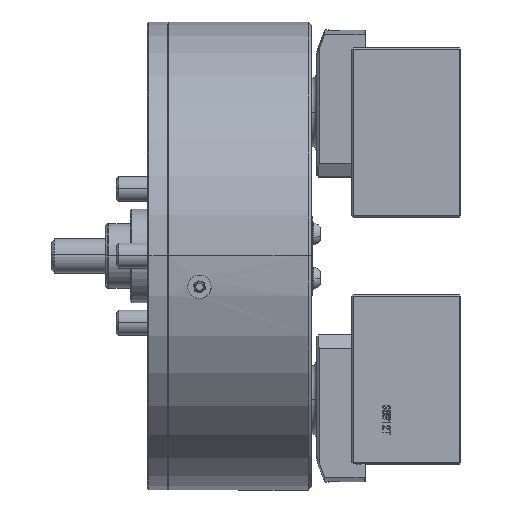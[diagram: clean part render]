
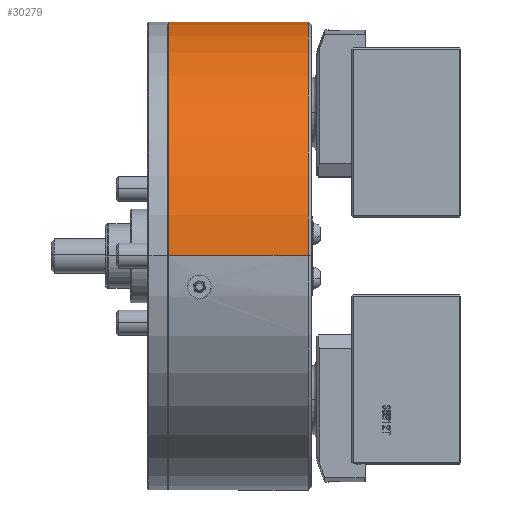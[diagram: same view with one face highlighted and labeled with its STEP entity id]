
A CAD part, top view. The second image highlights one B-rep face of the part: STEP entity #30279.
In plain terms, the highlighted cylindrical face has radius 150 mm (diameter 300 mm), a partial arc.
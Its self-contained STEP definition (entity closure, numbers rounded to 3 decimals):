
#1378 = CARTESIAN_POINT ( 'NONE',  ( 9.899, 0., 0. ) ) ;
#1625 = CARTESIAN_POINT ( 'NONE',  ( -2., 0., 0. ) ) ;
#3368 = EDGE_LOOP ( 'NONE', ( #45412, #45844, #45950, #46490 ) ) ;
#3394 = CARTESIAN_POINT ( 'NONE',  ( -91.2, 0., -150. ) ) ;
#5193 = DIRECTION ( 'NONE',  ( 1., 0., 0. ) ) ;
#5451 = DIRECTION ( 'NONE',  ( 0., 0., -1. ) ) ;
#5804 = FACE_OUTER_BOUND ( 'NONE', #3368, .T. ) ;
#6101 = VERTEX_POINT ( 'NONE', #30475 ) ;
#6906 = CARTESIAN_POINT ( 'NONE',  ( -91.2, 0., 0. ) ) ;
#8876 = CARTESIAN_POINT ( 'NONE',  ( -2., 0., 150. ) ) ;
#10726 = DIRECTION ( 'NONE',  ( 0., 0., -1. ) ) ;
#12951 = AXIS2_PLACEMENT_3D ( 'NONE', #6906, #33232, #10726 ) ;
#14025 = EDGE_CURVE ( 'NONE', #37751, #26816, #47907, .T. ) ;
#14665 = CYLINDRICAL_SURFACE ( 'NONE', #41987, 150. ) ;
#15526 = CARTESIAN_POINT ( 'NONE',  ( -2., 0., -150. ) ) ;
#18908 = VERTEX_POINT ( 'NONE', #8876 ) ;
#20068 = EDGE_CURVE ( 'NONE', #26816, #18908, #35016, .T. ) ;
#20329 = EDGE_CURVE ( 'NONE', #37751, #6101, #38004, .T. ) ;
#20849 = EDGE_CURVE ( 'NONE', #6101, #18908, #23789, .T. ) ;
#22494 = DIRECTION ( 'NONE',  ( 1., 0., 0. ) ) ;
#23789 = LINE ( 'NONE', #48423, #40316 ) ;
#23966 = DIRECTION ( 'NONE',  ( 0., 0., -1. ) ) ;
#23968 = AXIS2_PLACEMENT_3D ( 'NONE', #1625, #28023, #5451 ) ;
#26816 = VERTEX_POINT ( 'NONE', #15526 ) ;
#28023 = DIRECTION ( 'NONE',  ( 1., 0., 0. ) ) ;
#30279 = ADVANCED_FACE ( 'NONE', ( #5804 ), #14665, .T. ) ;
#30475 = CARTESIAN_POINT ( 'NONE',  ( -91.2, 0., 150. ) ) ;
#33232 = DIRECTION ( 'NONE',  ( 1., 0., 0. ) ) ;
#35016 = CIRCLE ( 'NONE', #23968, 150. ) ;
#36780 = VECTOR ( 'NONE', #40830, 1000. ) ;
#37751 = VERTEX_POINT ( 'NONE', #3394 ) ;
#38004 = CIRCLE ( 'NONE', #12951, 150. ) ;
#40316 = VECTOR ( 'NONE', #22494, 1000. ) ;
#40830 = DIRECTION ( 'NONE',  ( 1., 0., 0. ) ) ;
#40890 = CARTESIAN_POINT ( 'NONE',  ( 9.899, 0., -150. ) ) ;
#41987 = AXIS2_PLACEMENT_3D ( 'NONE', #1378, #5193, #23966 ) ;
#45412 = ORIENTED_EDGE ( 'NONE', *, *, #20329, .T. ) ;
#45844 = ORIENTED_EDGE ( 'NONE', *, *, #20849, .T. ) ;
#45950 = ORIENTED_EDGE ( 'NONE', *, *, #20068, .F. ) ;
#46490 = ORIENTED_EDGE ( 'NONE', *, *, #14025, .F. ) ;
#47907 = LINE ( 'NONE', #40890, #36780 ) ;
#48423 = CARTESIAN_POINT ( 'NONE',  ( 9.899, 0., 150. ) ) ;
